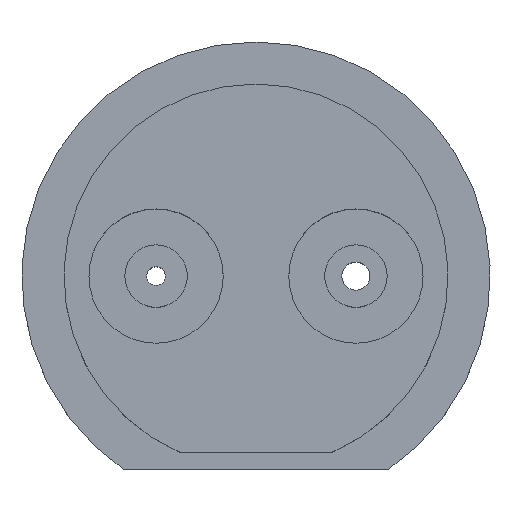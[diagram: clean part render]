
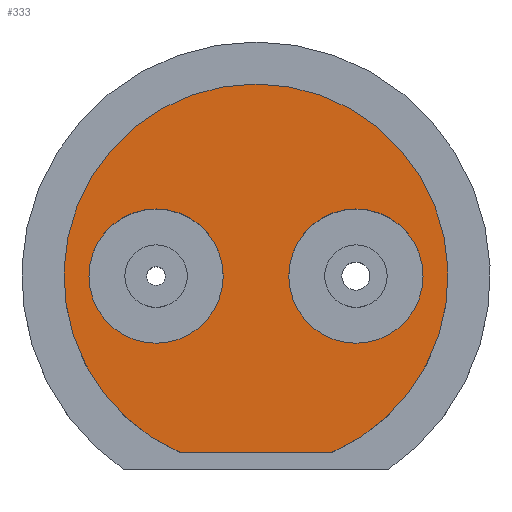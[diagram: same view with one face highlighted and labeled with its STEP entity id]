
A CAD part, top view. The second image highlights one B-rep face of the part: STEP entity #333.
In plain terms, the highlighted planar face has unit normal (0, 0, 1).
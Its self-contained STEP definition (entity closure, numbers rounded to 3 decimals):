
#90=VECTOR('',#430,1.);
#98=LINE('',#501,#90);
#110=PLANE('',#367);
#121=VERTEX_POINT('',#477);
#125=VERTEX_POINT('',#488);
#129=VERTEX_POINT('',#499);
#130=VERTEX_POINT('',#500);
#145=CIRCLE('',#355,2.15);
#149=CIRCLE('',#362,2.15);
#153=CIRCLE('',#369,6.15);
#165=EDGE_CURVE('',#121,#121,#145,.T.);
#169=EDGE_CURVE('',#125,#125,#149,.T.);
#173=EDGE_CURVE('',#129,#130,#153,.T.);
#174=EDGE_CURVE('',#130,#129,#98,.T.);
#209=ORIENTED_EDGE('',*,*,#173,.F.);
#210=ORIENTED_EDGE('',*,*,#174,.F.);
#211=ORIENTED_EDGE('',*,*,#169,.T.);
#212=ORIENTED_EDGE('',*,*,#165,.T.);
#265=EDGE_LOOP('',(#209,#210));
#266=EDGE_LOOP('',(#211));
#267=EDGE_LOOP('',(#212));
#305=FACE_BOUND('',#265,.T.);
#306=FACE_BOUND('',#266,.T.);
#307=FACE_BOUND('',#267,.T.);
#333=ADVANCED_FACE('',(#305,#306,#307),#110,.T.);
#355=AXIS2_PLACEMENT_3D('',#476,#403,#404);
#362=AXIS2_PLACEMENT_3D('',#487,#416,#417);
#367=AXIS2_PLACEMENT_3D('',#495,#425,$);
#369=AXIS2_PLACEMENT_3D('',#498,#428,#429);
#403=DIRECTION('',(0.,0.,-1.));
#404=DIRECTION('',(2.15,0.,0.));
#416=DIRECTION('',(0.,0.,-1.));
#417=DIRECTION('',(2.15,0.,0.));
#425=DIRECTION('',(0.,0.,1.));
#428=DIRECTION('',(0.,0.,-1.));
#429=DIRECTION('',(6.15,0.,0.));
#430=DIRECTION('',(-1.,0.,0.));
#476=CARTESIAN_POINT('',(3.2,0.,5.));
#477=CARTESIAN_POINT('',(5.35,0.,5.));
#487=CARTESIAN_POINT('',(-3.2,0.,5.));
#488=CARTESIAN_POINT('',(-1.05,0.,5.));
#495=CARTESIAN_POINT('',(0.,-0.474,5.));
#498=CARTESIAN_POINT('',(0.,0.,5.));
#499=CARTESIAN_POINT('',(-2.429,-5.65,5.));
#500=CARTESIAN_POINT('',(2.429,-5.65,5.));
#501=CARTESIAN_POINT('',(-2.429,-5.65,5.));
